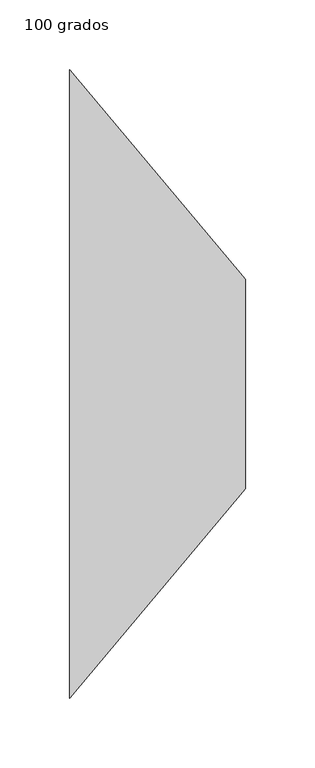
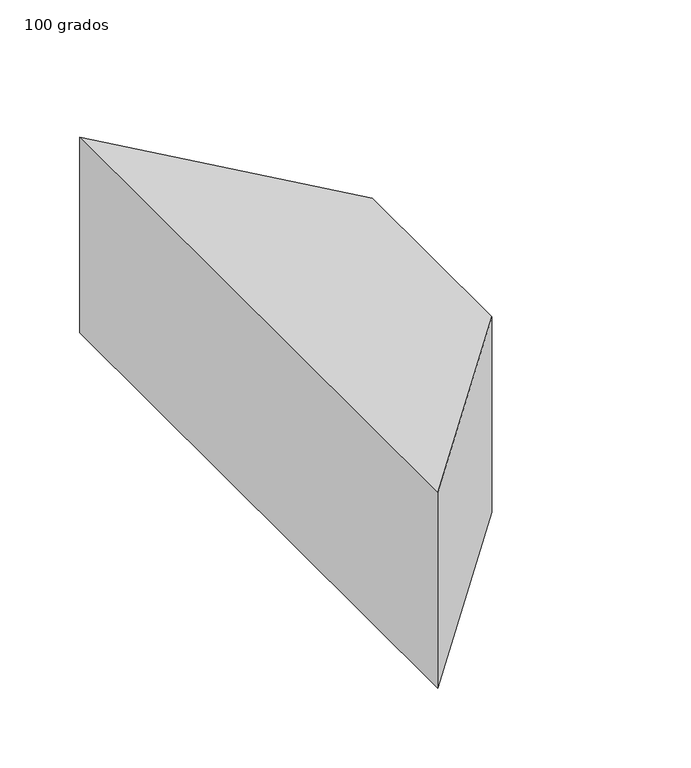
"""IFC4 building model written with IfcOpenShell, lengths in millimetres: duct fitting geometry, M_Transición rectangular - Ángulo : 100 grados."""

from ifc_helpers import new_model, si_unit, frame, origin, place, context, project, spatial, polyline, outline, extrude, source, transform, mapped, element, save


def duct_fitting_100_grados_0101f99c(model_context):
    return source(origin(), model_context, "Body", "SweptSolid", [
        extrude(outline(polyline([(0.0, -225.0), (0.0, 225.0), (125.8649447, 75.0), (125.8649447, -75.0), (0.0, -225.0)])), frame((0.0, 0.0, -75.0), z_axis=(0.0, 0.0, 1.0), x_axis=(1.0, 0.0, 0.0)), (0.0, 0.0, 1.0), 150.0),
    ])


if __name__ == "__main__":
    model = new_model("IFC4")
    model_context = context("Model", 3, world=origin())
    ifc_project = project(units=[si_unit("LENGTHUNIT", "METRE", prefix="MILLI")], contexts=[model_context])
    site = spatial("IfcSite", under=ifc_project)
    building = spatial("IfcBuilding", under=site)
    placement = place(None, origin())
    duct_fitting_100_grados_shape = duct_fitting_100_grados_0101f99c(model_context)
    element("IfcDuctFitting", 1, ObjectType="M_Transición rectangular - Ángulo : 100 grados", at=placement, inside=building, context=model_context, shape_type="MappedRepresentation", body=[
        mapped(duct_fitting_100_grados_shape, transform((0.0, 0.0, 0.0), x_axis=(1.0, 0.0, 0.0), y_axis=(0.0, 1.0, 0.0), z_axis=(0.0, 0.0, 1.0))),
    ])
    save(model, "model.ifc")
